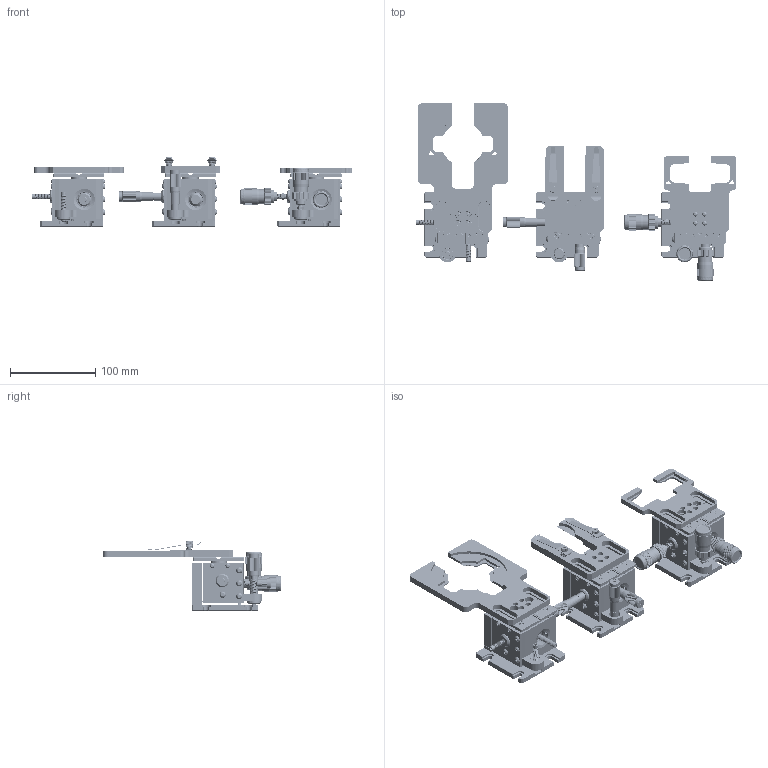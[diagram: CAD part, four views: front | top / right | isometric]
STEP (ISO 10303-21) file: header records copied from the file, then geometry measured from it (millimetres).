
FILE_DESCRIPTION((''),'2;1');
FILE_NAME('NXC3_ASM','2026-07-08T09:41:58',('Administrator'),(''),'CREO PARAMETRIC BY PTC INC, 2025102','CREO PARAMETRIC BY PTC INC, 2025102','');
FILE_SCHEMA(('CONFIG_CONTROL_DESIGN'));
Products named in the file (211): NANOXC3-WK01_223_1_1_1_1; NANOXC3-WK02_166_1_1_1_1; NANOXC3-WK05_114_1_1_1_1; NANOXC3-WK04_337_1_1_1_1; NANOXC3-WK06_66_1_1_1_1; NANOXC3-WK07_68_1_1_1_1; NANOXC3-E1_85_1_1_1_1; NANOXC3-WK08_122_1_1_1_1; NANOXC3-WK05-A1_ASM_139_ASM_1_2_ASM; NANOXC3-WK03_285_1_1_1_1; NANOXC3-A3_209_1_1_1_1; NANOXC3-A4_260_1_1_1_1; NANOXC3-S2_132_1_1_1_1; NANOXC3-E2_85_1_1_1_1; NANOXC3-E3_42_1_1_1_1; NANOXC3-A6_ASM_130_ASM_1_ASM__2_ASM; NANOXC3-E5_122_1_1_1_1; NANOXC3-E6_77_1_1_1_1; NANOXC3-E4_ASM_63_ASM_1_ASM_1_2_ASM; NANOXC3-E8_97_1_1_1_1; NANOXC3-E9_60_1_1_1_1; NANOXC3-B2_ASM_81_ASM_1_ASM_1_2_ASM; NANOXC3-F3_123_1_1_1_1; NANOXC3-F4_69_1_1_1_1; NANOXC3-C1-A1_ASM_61_ASM_1_AS_2_ASM; NANOXC3-D1_68_1_1_1_1; NANOXC3-D2_82_1_1_1_1; NANOXC3-D5_62_1_1_1_1; NANOXC3-D6_59_1_1_1_1; NANOXC3-D7_33_1_1_1_1; ISO7380-1-M4X6-8_8_67_1_1_1_1; ISO7380-1-M4X10-8_8_22_1_1_1_1; NANOXC3-D8_32_1_1_1_1; NANOXC3-D7-A2_ASM_122_ASM_1_A_2_ASM; NANOXC3-G1_35_1_1_1_1; NANOXC3-G2_55_1_1_1_1; NANOXC3-G3_201_1_1_1_1; ISO7045-M3X4-4_8_28_1_1_1_1; ISO7380-1-M3X6-8_8_21_1_1_1_1; NANOXC3-A2_ASM_591_ASM_1_ASM__2_ASM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
Assembly tree (347 placements, depth 9):
  NXC3_ASM
    NANOXC3_ASM-MC_ASM_3_ASM_1_AS_2_ASM
      NANOXC3_ASM_1408_ASM_2_ASM_1__2_ASM
        NANOXC3-WK01_223_1_1_1_1
        NANOXC3-WK02_166_1_1_1_1
        NANOXC3-WK05-A1_ASM_139_ASM_1_2_ASM
          NANOXC3-WK05_114_1_1_1_1
          NANOXC3-WK04_337_1_1_1_1
          NANOXC3-WK06_66_1_1_1_1
          NANOXC3-WK07_68_1_1_1_1
          NANOXC3-E1_85_1_1_1_1  x6
          NANOXC3-WK08_122_1_1_1_1
        NANOXC3-WK03_285_1_1_1_1
        NANOXC3-A2_ASM_591_ASM_1_ASM__2_ASM
          NANOXC3-A3_209_1_1_1_1
          NANOXC3-A4_260_1_1_1_1
          NANOXC3-A6_ASM_130_ASM_1_ASM__2_ASM
            NANOXC3-S2_132_1_1_1_1
            NANOXC3-E2_85_1_1_1_1
            NANOXC3-E3_42_1_1_1_1  x6
          NANOXC3-E4_ASM_63_ASM_1_ASM_1_2_ASM
            NANOXC3-E5_122_1_1_1_1
            NANOXC3-E6_77_1_1_1_1
            NANOXC3-E1_85_1_1_1_1  x6
          NANOXC3-B2_ASM_81_ASM_1_ASM_1_2_ASM
            NANOXC3-E8_97_1_1_1_1
            NANOXC3-E9_60_1_1_1_1
            NANOXC3-E1_85_1_1_1_1  x4
          NANOXC3-C1-A1_ASM_61_ASM_1_AS_2_ASM
            NANOXC3-F3_123_1_1_1_1
            NANOXC3-F4_69_1_1_1_1
            NANOXC3-E1_85_1_1_1_1  x4
          NANOXC3-D1_68_1_1_1_1
          NANOXC3-D2_82_1_1_1_1
          NANOXC3-D5_62_1_1_1_1  x2
          NANOXC3-D6_59_1_1_1_1  x2
          NANOXC3-D7-A2_ASM_122_ASM_1_A_2_ASM
            NANOXC3-D7_33_1_1_1_1
            ISO7380-1-M4X6-8_8_67_1_1_1_1
            ISO7380-1-M4X10-8_8_22_1_1_1_1
            NANOXC3-D8_32_1_1_1_1
          NANOXC3-G1_35_1_1_1_1  x2
          NANOXC3-WK08_122_1_1_1_1
          NANOXC3-G2_55_1_1_1_1
          NANOXC3-G3_201_1_1_1_1
          ISO7045-M3X4-4_8_28_1_1_1_1  x12
          ISO7380-1-M3X6-8_8_21_1_1_1_1  x4
        NANOXC3-WK10_ASM_115_ASM_1_AS_2_ASM
          NANOXC3-WK12_108_1_1_1_1
          NANOXC3-WK11_99_1_1_1_1
          NANOXC3-E1_85_1_1_1_1  x5
        NANOXC3-WK14_ASM_62_ASM_1_ASM_3_ASM
          NANOXC3-WK08_122_1_1_1_1
          NANOXC3-WK13_85_1_1_1_1
        NANOXC3-R1_15_1_1_1_1
        NANOXC3-R2_ASM_61_ASM_1_ASM_1_2_ASM
          DRP41-C_ASM_ASM_ASM_3_ASM_1_A_2_ASM
            DRP41-C_ASM_ASM_1_ASM_3_ASM_1_2_ASM
              DRP41-C_ASM_699_ASM_11_ASM_3__2_ASM
                DRP41-C-A1_174_1_3_1_1_1_1
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Bounding box: 377.11 x 208.49 x 81.31 mm (x, y, z)
Volume: 556841.5 mm3; surface area: 434135.4 mm2
Topology: 334 solids, 385 shells, 16632 faces, 44837 edges, 29096 vertices
Faces by surface type: cylinder 6986, plane 5555, bspline 2036, cone 1744, sphere 273, extrusion 28, torus 10
Entity records: 1131026 total; most frequent: CARTESIAN_POINT 782991, ORIENTED_EDGE 76810, DIRECTION 64265, EDGE_CURVE 38468, VERTEX_POINT 25228, AXIS2_PLACEMENT_3D 23579, VECTOR 17107, LINE 17083
